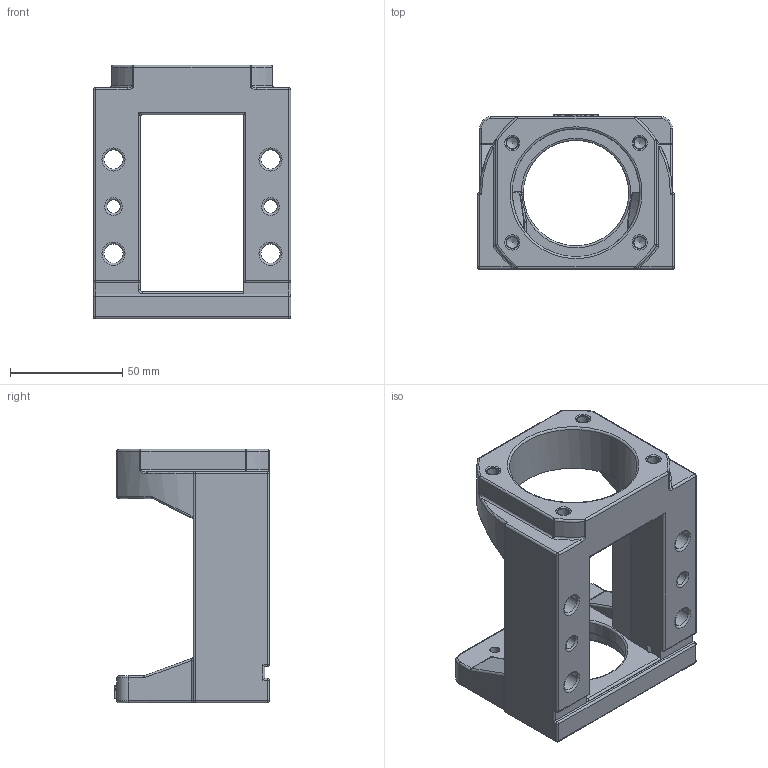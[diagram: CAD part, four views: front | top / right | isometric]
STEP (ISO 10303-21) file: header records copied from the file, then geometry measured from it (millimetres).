
FILE_DESCRIPTION(/* description */ (''),/* implementation_level */ '2;1');
FILE_NAME(/* name */ 'M60D-FKA20-A.stp',/* time_stamp */ '2016-10-27T10:21:56+08:00',/* author */ (''),/* organization */ (''),/* preprocessor_version */ 'ST-DEVELOPER v15',/* originating_system */ 'SIEMENS PLM Software NX 8.5',/* authorisation */ '');
FILE_SCHEMA (('CONFIG_CONTROL_DESIGN'));
Length unit declared in the file: millimetre
Products named in the file (1): MBA20-D
Bounding box: 88 x 69 x 113 mm (x, y, z)
Volume: 206493.4 mm3; surface area: 50021.5 mm2
Topology: 1 solids, 1 shells, 379 faces, 942 edges, 554 vertices
Faces by surface type: cylinder 112, plane 103, torus 48, extrusion 41, bspline 34, sphere 25, cone 16
Full cylindrical faces by diameter (mm): 4.3 x4, 5.1 x4, 6 x2, 8 x2, 8.5 x4, 14 x4, 47 x1, 50 x1, 57 x1
Entity records: 12482 total; most frequent: CARTESIAN_POINT 4391, ORIENTED_EDGE 1686, DIRECTION 1491, EDGE_CURVE 843, AXIS2_PLACEMENT_3D 583, VERTEX_POINT 540, EDGE_LOOP 473, ADVANCED_FACE 379
